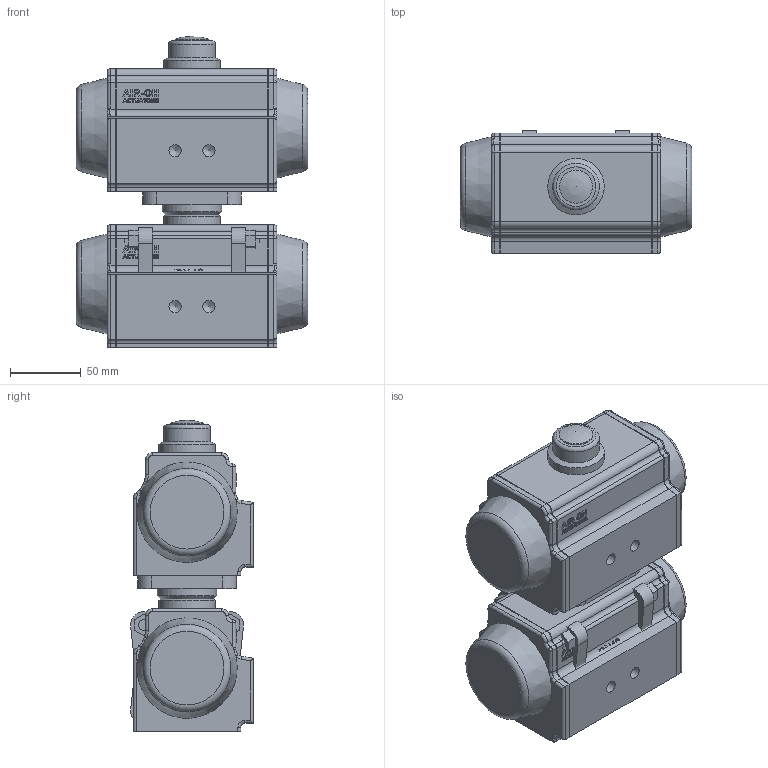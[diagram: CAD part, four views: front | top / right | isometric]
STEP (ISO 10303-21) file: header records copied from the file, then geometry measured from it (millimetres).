
FILE_DESCRIPTION( ( 'Unknown' ), '1' );
FILE_NAME( 'W:/ECCUA/ROOTSI BPS 3D vidinad/Kuulkraanid/Roostevaba kuulkraanid/Ball valve BPS 2420/Ball valve with pneumatic actuator BPS/STEP format/BPS 2420040P ball valve DN40.stp', 'Unknown', ( 'Unknown' ), ( 'Unknown' ), 'PSStep 10.1', 'Unknown', ' ' );
FILE_SCHEMA( ( 'AUTOMOTIVE_DESIGN { 1 0 10303 214 1 1 1 1 }' ) );
Length unit declared in the file: millimetre
Products named in the file (5): Assem1; BPS 2420040 ball valve DN40; BPS 8300063DA-SR pneumatic actuator
Bounding box: 164 x 87 x 220.3 mm (x, y, z)
Volume: 2688885.9 mm3; surface area: 336099.2 mm2
Topology: 8 solids, 8 shells, 1108 faces, 2758 edges, 1808 vertices
Faces by surface type: plane 502, cylinder 246, extrusion 202, bspline 86, torus 38, cone 28, sphere 6
Full cylindrical faces by diameter (mm): 4.917 x8, 6.647 x8, 8 x24, 8.566 x4, 23.5 x2, 33 x4, 38 x2, 40 x2, 42 x2, 44.845 x4, 73 x2
Entity records: 27073 total; most frequent: CARTESIAN_POINT 10492, ORIENTED_EDGE 2572, DIRECTION 2028, EDGE_CURVE 1286, VERTEX_POINT 884, VECTOR 718, EDGE_LOOP 706, AXIS2_PLACEMENT_3D 655
